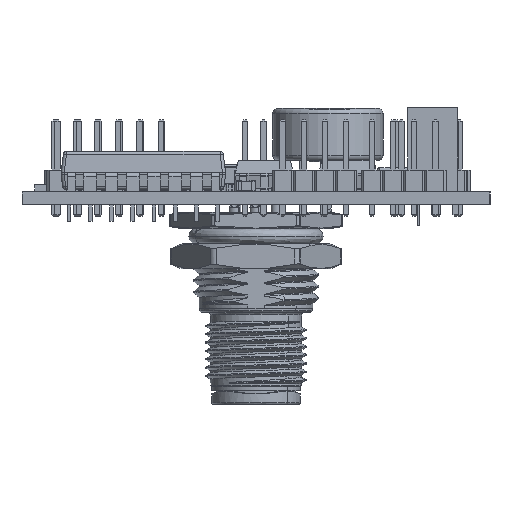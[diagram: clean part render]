
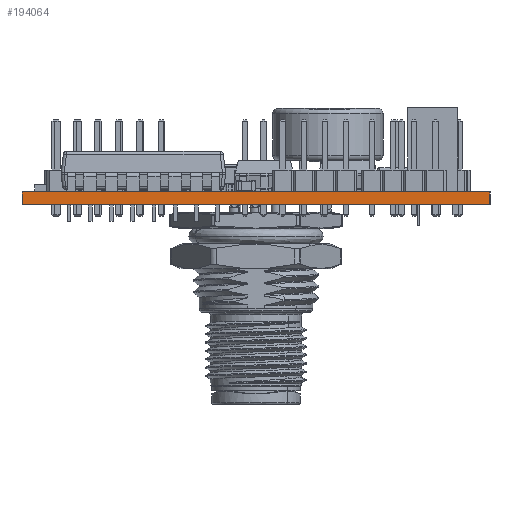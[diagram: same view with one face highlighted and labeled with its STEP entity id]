
A CAD part, left-side view. The second image highlights one B-rep face of the part: STEP entity #194064.
In plain terms, the highlighted planar face has unit normal (-1, 0, 0).
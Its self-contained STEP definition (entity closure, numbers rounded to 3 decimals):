
#194008 = VERTEX_POINT('',#194009);
#194009 = CARTESIAN_POINT('',(94.,-133.,1.51));
#194015 = EDGE_CURVE('',#194016,#194008,#194018,.T.);
#194016 = VERTEX_POINT('',#194017);
#194017 = CARTESIAN_POINT('',(94.,-133.,0.));
#194018 = LINE('',#194019,#194020);
#194019 = CARTESIAN_POINT('',(94.,-133.,0.));
#194020 = VECTOR('',#194021,1.);
#194021 = DIRECTION('',(0.,0.,1.));
#194064 = ADVANCED_FACE('',(#194065),#194090,.T.);
#194065 = FACE_BOUND('',#194066,.T.);
#194066 = EDGE_LOOP('',(#194067,#194068,#194076,#194084));
#194067 = ORIENTED_EDGE('',*,*,#194015,.T.);
#194068 = ORIENTED_EDGE('',*,*,#194069,.T.);
#194069 = EDGE_CURVE('',#194008,#194070,#194072,.T.);
#194070 = VERTEX_POINT('',#194071);
#194071 = CARTESIAN_POINT('',(94.,-77.,1.51));
#194072 = LINE('',#194073,#194074);
#194073 = CARTESIAN_POINT('',(94.,-133.,1.51));
#194074 = VECTOR('',#194075,1.);
#194075 = DIRECTION('',(0.,1.,0.));
#194076 = ORIENTED_EDGE('',*,*,#194077,.F.);
#194077 = EDGE_CURVE('',#194078,#194070,#194080,.T.);
#194078 = VERTEX_POINT('',#194079);
#194079 = CARTESIAN_POINT('',(94.,-77.,0.));
#194080 = LINE('',#194081,#194082);
#194081 = CARTESIAN_POINT('',(94.,-77.,0.));
#194082 = VECTOR('',#194083,1.);
#194083 = DIRECTION('',(0.,0.,1.));
#194084 = ORIENTED_EDGE('',*,*,#194085,.F.);
#194085 = EDGE_CURVE('',#194016,#194078,#194086,.T.);
#194086 = LINE('',#194087,#194088);
#194087 = CARTESIAN_POINT('',(94.,-133.,0.));
#194088 = VECTOR('',#194089,1.);
#194089 = DIRECTION('',(0.,1.,0.));
#194090 = PLANE('',#194091);
#194091 = AXIS2_PLACEMENT_3D('',#194092,#194093,#194094);
#194092 = CARTESIAN_POINT('',(94.,-133.,0.));
#194093 = DIRECTION('',(-1.,0.,0.));
#194094 = DIRECTION('',(0.,1.,0.));
